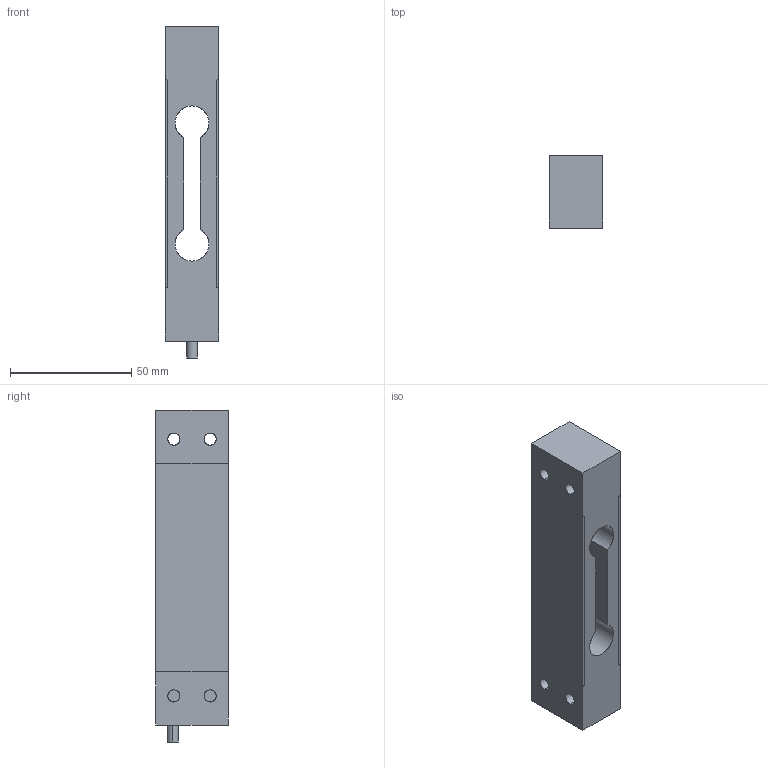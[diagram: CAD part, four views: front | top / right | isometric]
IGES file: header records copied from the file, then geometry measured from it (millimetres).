
Start section: SolidWorks IGES file using analytic representation for surfaces
Global section: file name: O:\16-Entwicklung\Projekte\Kraftsensoren\0208_KM302\01_Mechanik & Gehäuse\01_Solid Works\01_Outline 3D files\Volumenmodell\3D_KM302_30N-500N_komp.IGS; native system: SolidWorks 2012; preprocessor: SolidWorks 2012; author: andreb; date: 121213.083228; units: millimetre
Bounding box: 22.2 x 30 x 137 mm (x, y, z)
Surface area: 19607.1 mm2 (no closed solid volume)
Topology: 0 solids, 0 shells, 52 faces, 768 edges, 768 vertices
Faces by surface type: bspline 29, revolution 23
